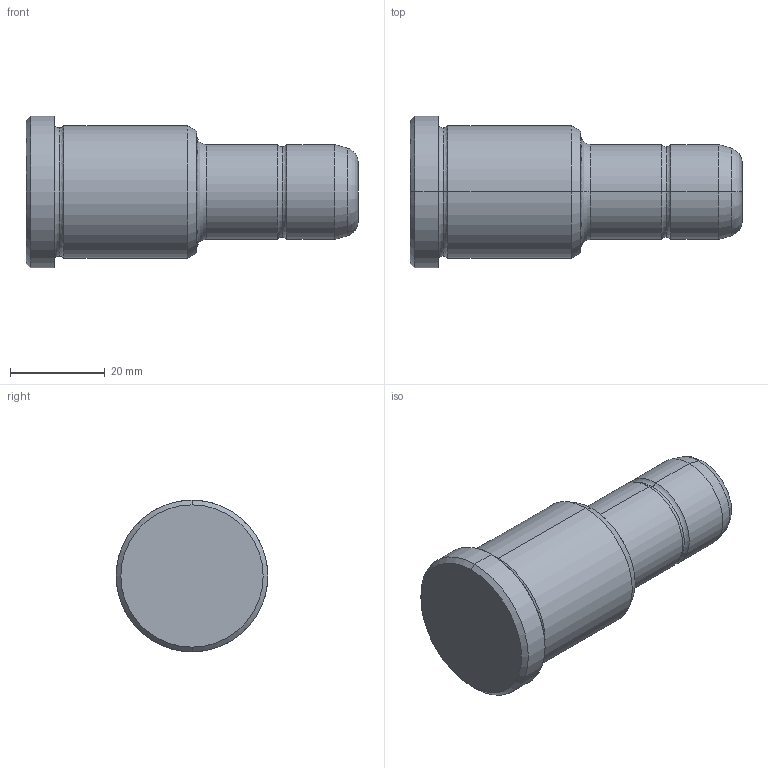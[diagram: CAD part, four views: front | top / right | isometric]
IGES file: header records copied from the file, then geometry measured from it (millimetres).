
Start section: START RECORD GO HERE.
Global section: file name: 351-20X36X70.igs; native system: DASSAULT SYSTEMES CATIA V5 R20 - www.3ds.com; preprocessor: CATIA Version 5 Release 20 ; author: Utente; organization: NB04-ASUS; date: 20210827.142750; units: millimetre
Bounding box: 70 x 32 x 32 mm (x, y, z)
Surface area: 6705.8 mm2 (no closed solid volume)
Topology: 0 solids, 0 shells, 30 faces, 172 edges, 172 vertices
Faces by surface type: revolution 26, plane 4
